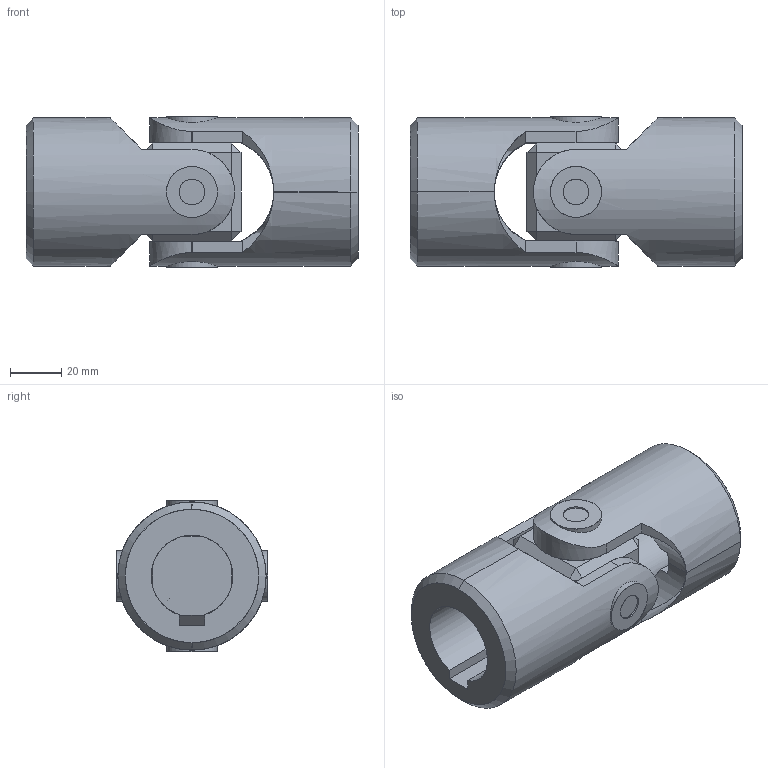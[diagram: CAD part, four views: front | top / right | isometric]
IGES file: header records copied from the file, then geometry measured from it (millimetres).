
Start section: SolidWorks IGES file using analytic representation for surfaces
Global section: file name: C:\Users\IanO\Desktop\R3690_v2\R3690_v2_20231020_IGES\R3690.032-KW.igs; native system: SolidWorks 2019; preprocessor: SolidWorks 2019; author: IanO; date: 231020.152607; units: millimetre
Bounding box: 130 x 59.16 x 59.16 mm (x, y, z)
Surface area: 58345.3 mm2 (no closed solid volume)
Topology: 0 solids, 0 shells, 110 faces, 2462 edges, 2462 vertices
Faces by surface type: bspline 62, revolution 48
